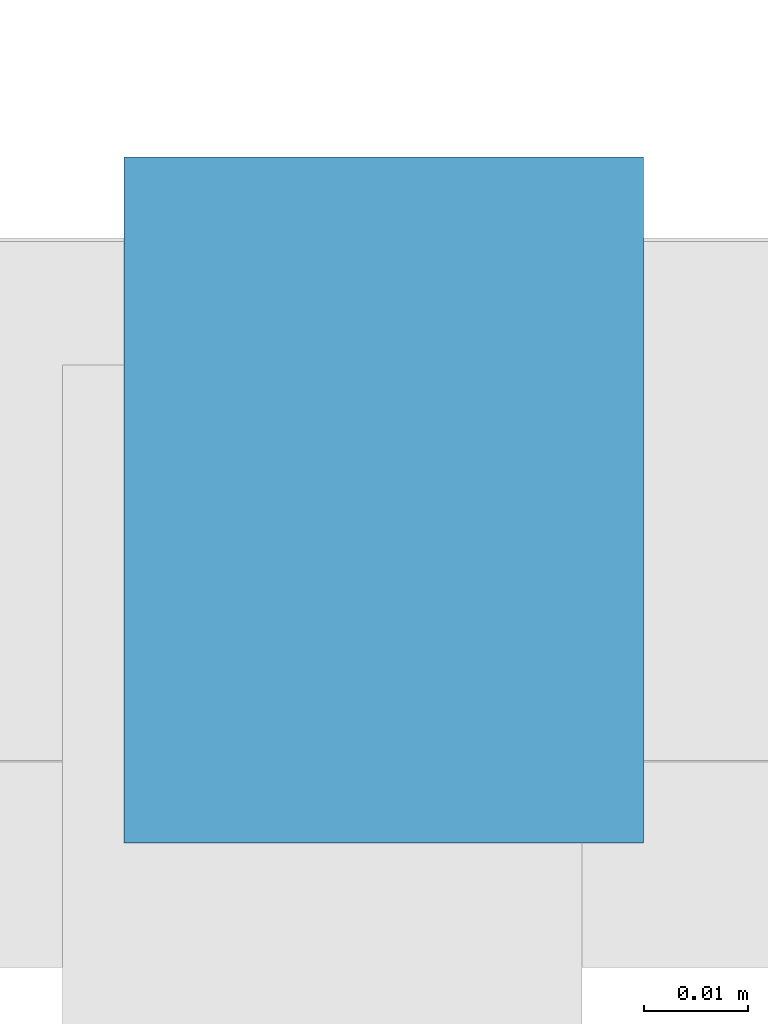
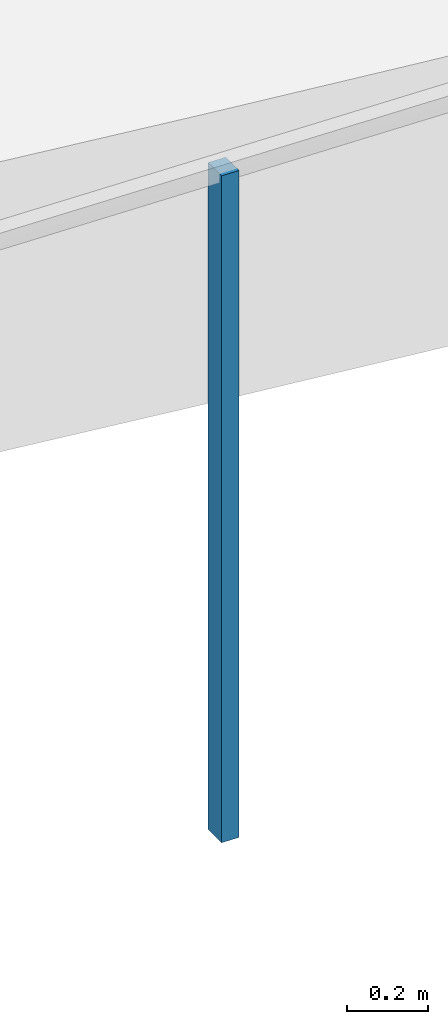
# One storey, part 49 of 91: 1 building element part, 1 element without a shape of its own.
"""IFC2X3 building model written with IfcOpenShell, lengths in metres."""

from ifc_helpers import new_model, entity, si_unit, converted_unit, derived_unit, money_unit, direction, frame, origin_with_axes, place, context, subcontext, project, spatial, faceted_brep, material, type_object, element, aggregate, save


model = new_model("IFC2X3")

# Units and contexts
model_context = context("Model", 3, precision=1e-05, world=origin_with_axes(), true_north=direction((0.0, 1.0)))
body_context = subcontext(model_context, "Body", "Model", "MODEL_VIEW")
ifc_project = project(units=[si_unit("LENGTHUNIT", "METRE"), si_unit("AREAUNIT", "SQUARE_METRE"), si_unit("VOLUMEUNIT", "CUBIC_METRE"), converted_unit("PLANEANGLEUNIT", "DEGREE", entity("IfcPlaneAngleMeasure", 0.0174532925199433), si_unit("PLANEANGLEUNIT", "RADIAN"), dimensions=[0, 0, 0, 0, 0, 0, 0]), money_unit("EUR"), converted_unit("TIMEUNIT", "Year", entity("IfcTimeMeasure", 31557600.0), si_unit("TIMEUNIT", "SECOND"), dimensions=[0, 0, 1, 0, 0, 0, 0]), si_unit("MASSUNIT", "GRAM", prefix="KILO"), si_unit("THERMODYNAMICTEMPERATUREUNIT", "DEGREE_CELSIUS"), si_unit("LUMINOUSINTENSITYUNIT", "LUMEN"), si_unit("ENERGYUNIT", "JOULE", prefix="MEGA"), derived_unit("THERMALCONDUCTANCEUNIT", [(si_unit("POWERUNIT", "WATT"), 1), (si_unit("LENGTHUNIT", "METRE"), -1), (si_unit("THERMODYNAMICTEMPERATUREUNIT", "KELVIN"), -1)]), derived_unit("SPECIFICHEATCAPACITYUNIT", [(si_unit("ENERGYUNIT", "JOULE"), 1), (si_unit("MASSUNIT", "GRAM", prefix="KILO"), -1), (si_unit("THERMODYNAMICTEMPERATUREUNIT", "KELVIN"), -1)]), derived_unit("MASSDENSITYUNIT", [(si_unit("MASSUNIT", "GRAM", prefix="KILO"), 1), (si_unit("VOLUMEUNIT", "CUBIC_METRE"), -1)])], contexts=[model_context])

# Site, building, storey
site_placement = place(None, origin_with_axes())
site = spatial("IfcSite", under=ifc_project, at=site_placement, Name="Site", CompositionType="ELEMENT")
building_placement = place(site_placement, origin_with_axes())
building = spatial("IfcBuilding", under=site, at=building_placement, Name="Bâtiment", CompositionType="ELEMENT")
storey_placement = place(building_placement, origin_with_axes())
storey = spatial("IfcBuildingStorey", under=building, at=storey_placement, Name="RDC", CompositionType="ELEMENT", Elevation=0.0)

# Proxy, building element part
building_element_proxy_type = type_object("IfcBuildingElementProxyType", Name="Type de garde-corps", PredefinedType="NOTDEFINED")
proxy_placement = place(storey_placement, frame((79.63337255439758, 3.614023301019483, -2.37161404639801), z_axis=(0.0, 0.0, 1.0), x_axis=(1.0, 0.0, 0.0)))
proxy = element("IfcBuildingElementProxy", 1, at=proxy_placement, inside=storey, type_object=building_element_proxy_type, Name="RAMPE-004")
ifc_material = material(Name="Acier Galva")
building_element_part_placement = place(proxy_placement, origin_with_axes())
building_element_part = element("IfcBuildingElementPart", 2, at=building_element_part_placement, material=ifc_material, Name="Acier Galva", context=body_context, shape_type="Brep", body=[
    faceted_brep([(-52.57629858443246, -41.495928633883, 4.110138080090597), (-52.57629858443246, -41.42992863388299, 4.110138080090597), (-52.57629858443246, -41.42992863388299, 6.110138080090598), (-52.57629858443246, -41.495928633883, 6.110138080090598), (-52.62629858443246, -41.495928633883, 4.111459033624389), (-52.62629858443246, -41.42992863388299, 4.111459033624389), (-52.62629858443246, -41.42992863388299, 6.111459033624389), (-52.62629858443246, -41.495928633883, 6.111459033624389)], [[[0, 1, 2, 3]], [[0, 4, 5, 1]], [[1, 5, 6, 2]], [[3, 2, 6, 7]], [[4, 0, 3, 7]], [[5, 4, 7, 6]]]),
])
aggregate(proxy, [building_element_part])

save(model, "model.ifc")
